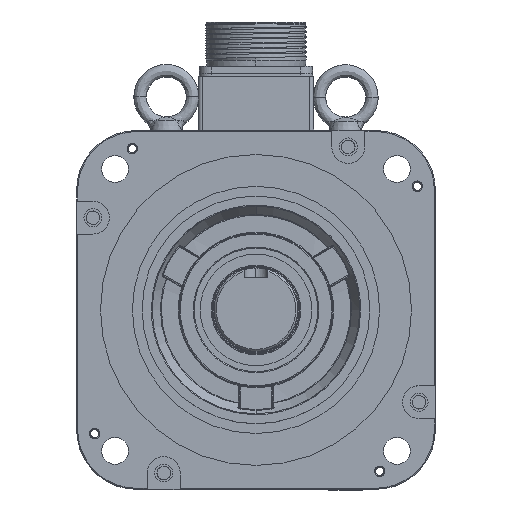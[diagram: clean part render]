
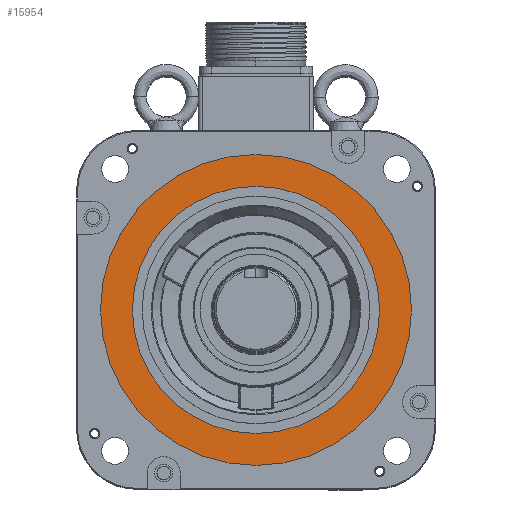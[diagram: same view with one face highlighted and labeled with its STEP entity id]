
A CAD part, top view. The second image highlights one B-rep face of the part: STEP entity #15954.
In plain terms, the highlighted planar face has unit normal (0, 0, -1).
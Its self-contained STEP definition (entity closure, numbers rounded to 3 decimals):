
#460 = EDGE_LOOP ( 'NONE', ( #36995, #14955 ) ) ;
#1425 = DIRECTION ( 'NONE',  ( 1., 0., 0. ) ) ;
#3170 = CARTESIAN_POINT ( 'NONE',  ( 36.315, 219.183, 90.807 ) ) ;
#3887 = DIRECTION ( 'NONE',  ( 0., 0., 1. ) ) ;
#4504 = ORIENTED_EDGE ( 'NONE', *, *, #43974, .F. ) ;
#4893 = EDGE_CURVE ( 'NONE', #20586, #17306, #24976, .T. ) ;
#5213 = CARTESIAN_POINT ( 'NONE',  ( 36.315, 219.183, 90.807 ) ) ;
#5235 = DIRECTION ( 'NONE',  ( 0., 0., 1. ) ) ;
#6085 = AXIS2_PLACEMENT_3D ( 'NONE', #44530, #5235, #30283 ) ;
#6758 = DIRECTION ( 'NONE',  ( 1., 0., 0. ) ) ;
#8204 = CARTESIAN_POINT ( 'NONE',  ( 98.315, 219.183, 90.807 ) ) ;
#8721 = ORIENTED_EDGE ( 'NONE', *, *, #4893, .F. ) ;
#8832 = DIRECTION ( 'NONE',  ( 1., 0., 0. ) ) ;
#10661 = EDGE_CURVE ( 'NONE', #24941, #19488, #20945, .T. ) ;
#14955 = ORIENTED_EDGE ( 'NONE', *, *, #32139, .F. ) ;
#15921 = PLANE ( 'NONE',  #6085 ) ;
#15954 = ADVANCED_FACE ( 'NONE', ( #18362, #27887 ), #15921, .F. ) ;
#17306 = VERTEX_POINT ( 'NONE', #34353 ) ;
#18362 = FACE_OUTER_BOUND ( 'NONE', #22823, .T. ) ;
#19488 = VERTEX_POINT ( 'NONE', #22973 ) ;
#20586 = VERTEX_POINT ( 'NONE', #35082 ) ;
#20945 = CIRCLE ( 'NONE', #25374, 62. ) ;
#22823 = EDGE_LOOP ( 'NONE', ( #4504, #8721 ) ) ;
#22872 = DIRECTION ( 'NONE',  ( 0., 0., -1. ) ) ;
#22973 = CARTESIAN_POINT ( 'NONE',  ( -25.685, 219.183, 90.807 ) ) ;
#24941 = VERTEX_POINT ( 'NONE', #8204 ) ;
#24976 = CIRCLE ( 'NONE', #39243, 78. ) ;
#25368 = CARTESIAN_POINT ( 'NONE',  ( 36.315, 219.183, 90.807 ) ) ;
#25374 = AXIS2_PLACEMENT_3D ( 'NONE', #44283, #22872, #1425 ) ;
#27887 = FACE_BOUND ( 'NONE', #460, .T. ) ;
#28198 = DIRECTION ( 'NONE',  ( 0., 0., -1. ) ) ;
#28929 = DIRECTION ( 'NONE',  ( 1., 0., 0. ) ) ;
#30257 = DIRECTION ( 'NONE',  ( 0., 0., 1. ) ) ;
#30283 = DIRECTION ( 'NONE',  ( 1., 0., 0. ) ) ;
#32139 = EDGE_CURVE ( 'NONE', #19488, #24941, #33196, .T. ) ;
#33144 = CIRCLE ( 'NONE', #37922, 78. ) ;
#33196 = CIRCLE ( 'NONE', #44723, 62. ) ;
#34353 = CARTESIAN_POINT ( 'NONE',  ( 114.315, 219.183, 90.807 ) ) ;
#35082 = CARTESIAN_POINT ( 'NONE',  ( -41.685, 219.183, 90.807 ) ) ;
#36995 = ORIENTED_EDGE ( 'NONE', *, *, #10661, .F. ) ;
#37922 = AXIS2_PLACEMENT_3D ( 'NONE', #25368, #3887, #28929 ) ;
#39243 = AXIS2_PLACEMENT_3D ( 'NONE', #5213, #30257, #8832 ) ;
#43974 = EDGE_CURVE ( 'NONE', #17306, #20586, #33144, .T. ) ;
#44283 = CARTESIAN_POINT ( 'NONE',  ( 36.315, 219.183, 90.807 ) ) ;
#44530 = CARTESIAN_POINT ( 'NONE',  ( 36.315, 219.183, 90.807 ) ) ;
#44723 = AXIS2_PLACEMENT_3D ( 'NONE', #3170, #28198, #6758 ) ;
